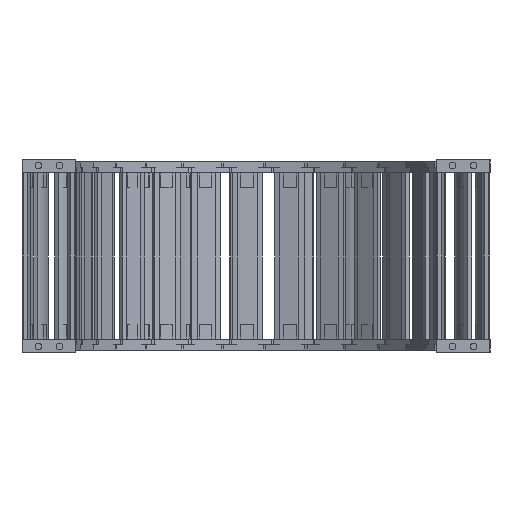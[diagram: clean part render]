
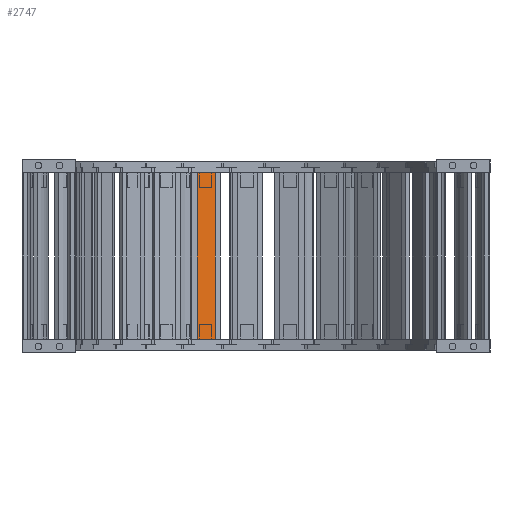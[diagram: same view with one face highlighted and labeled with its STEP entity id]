
A CAD part, left-side view. The second image highlights one B-rep face of the part: STEP entity #2747.
In plain terms, the highlighted planar face has unit normal (-0.96, -0.28, 0) as drawn and (0, -1, 0) by its records, which use the part's own axes.
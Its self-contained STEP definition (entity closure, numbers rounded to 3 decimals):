
#2634=DIRECTION('',(0.,0.,-1.));
#2635=VECTOR('',#2634,200.5);
#2636=CARTESIAN_POINT('',(-11.5,-61.,37.5));
#2637=LINE('',#2636,#2635);
#2651=DIRECTION('',(1.,0.,0.));
#2652=VECTOR('',#2651,23.);
#2653=CARTESIAN_POINT('',(-11.5,-61.,37.5));
#2654=LINE('',#2653,#2652);
#2684=DIRECTION('',(-1.,0.,0.));
#2685=VECTOR('',#2684,23.);
#2686=CARTESIAN_POINT('',(11.5,-61.,-163.));
#2687=LINE('',#2686,#2685);
#2700=DIRECTION('',(0.,0.,-1.));
#2701=VECTOR('',#2700,200.5);
#2702=CARTESIAN_POINT('',(11.5,-61.,37.5));
#2703=LINE('',#2702,#2701);
#2714=CARTESIAN_POINT('',(11.5,-61.,-163.));
#2715=VERTEX_POINT('',#2714);
#2716=CARTESIAN_POINT('',(-11.5,-61.,-163.));
#2717=VERTEX_POINT('',#2716);
#2726=CARTESIAN_POINT('',(11.5,-61.,37.5));
#2727=VERTEX_POINT('',#2726);
#2730=CARTESIAN_POINT('',(-11.5,-61.,37.5));
#2731=VERTEX_POINT('',#2730);
#2732=CARTESIAN_POINT('',(15.5,-61.,-163.));
#2733=DIRECTION('',(0.,1.,0.));
#2734=DIRECTION('',(-1.,0.,0.));
#2735=AXIS2_PLACEMENT_3D('',#2732,#2733,#2734);
#2736=PLANE('',#2735);
#2738=ORIENTED_EDGE('',*,*,#2737,.F.);
#2740=ORIENTED_EDGE('',*,*,#2739,.T.);
#2742=ORIENTED_EDGE('',*,*,#2741,.T.);
#2744=ORIENTED_EDGE('',*,*,#2743,.T.);
#2745=EDGE_LOOP('',(#2738,#2740,#2742,#2744));
#2746=FACE_OUTER_BOUND('',#2745,.F.);
#2747=ADVANCED_FACE('',(#2746),#2736,.F.);
#2737=EDGE_CURVE('',#2731,#2717,#2637,.T.);
#2739=EDGE_CURVE('',#2731,#2727,#2654,.T.);
#2741=EDGE_CURVE('',#2727,#2715,#2703,.T.);
#2743=EDGE_CURVE('',#2715,#2717,#2687,.T.);
